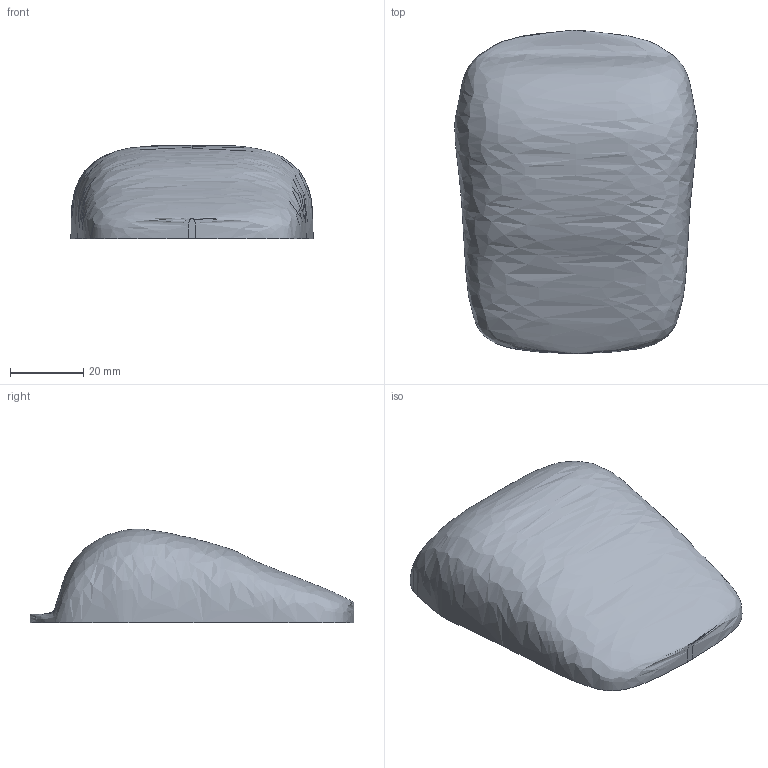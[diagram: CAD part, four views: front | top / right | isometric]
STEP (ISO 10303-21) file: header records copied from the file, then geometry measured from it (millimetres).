
FILE_DESCRIPTION(('Open CASCADE Model'),'2;1');
FILE_NAME('Open CASCADE Shape Model','2026-10-17T02:25:03',('Author'),( 'Open CASCADE'),'Open CASCADE STEP processor 7.9','Open CASCADE 7.9' ,'Unknown');
FILE_SCHEMA(('AUTOMOTIVE_DESIGN { 1 0 10303 214 1 1 1 1 }'));
Length unit declared in the file: millimetre
Products named in the file (1): Open CASCADE STEP translator 7.9 31
Bounding box: 66.09 x 88.24 x 25.47 mm (x, y, z)
Volume: 84056.6 mm3; surface area: 13433.2 mm2
Topology: 1 solids, 1 shells, 4 faces, 6 edges, 4 vertices
Faces by surface type: plane 3, bspline 1
Entity records: 5582 total; most frequent: CARTESIAN_POINT 5450, DIRECTION 18, ORIENTED_EDGE 12, PCURVE 12, DEFINITIONAL_REPRESENTATION 12, LINE 10, VECTOR 10, B_SPLINE_CURVE_WITH_KNOTS 8
